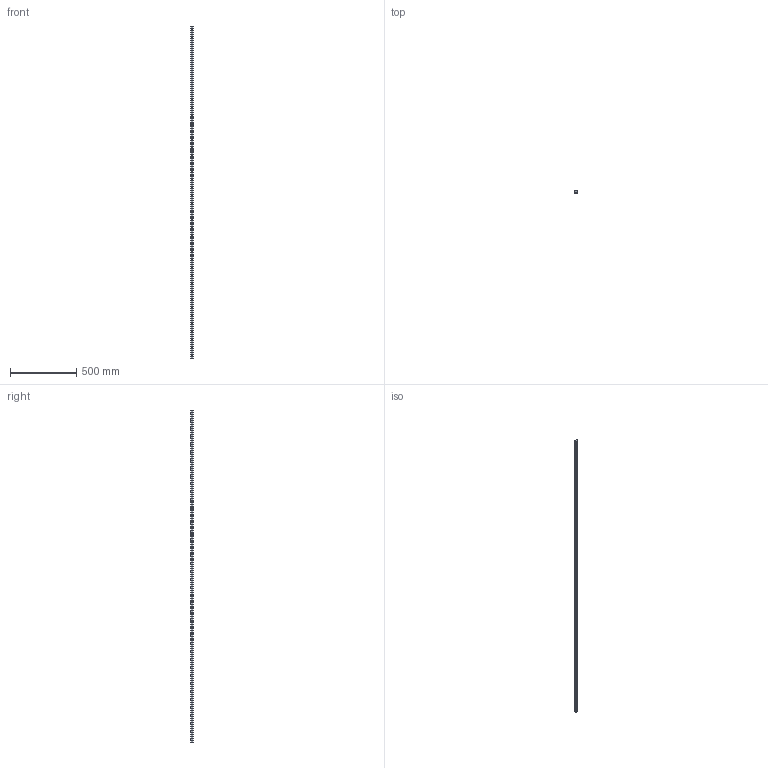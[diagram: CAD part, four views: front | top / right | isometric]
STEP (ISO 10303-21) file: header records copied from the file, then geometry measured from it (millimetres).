
FILE_DESCRIPTION (( 'STEP AP203' ), '1' );
FILE_NAME ('L1016.BL20-2500.step', '2019-06-12T11:53:14', ( '' ), ( '' ), 'SwSTEP 2.0', 'SolidWorks 2017', '' );
FILE_SCHEMA (( 'CONFIG_CONTROL_DESIGN' ));
Length unit declared in the file: millimetre
Products named in the file (1): L1016.BL20-2500
Bounding box: 20 x 16.3 x 2500 mm (x, y, z)
Volume: 694890.6 mm3; surface area: 201193.6 mm2
Topology: 1 solids, 1 shells, 236 faces, 576 edges, 384 vertices
Faces by surface type: cylinder 172, plane 64
Entity records: 7369 total; most frequent: DIRECTION 1394, CARTESIAN_POINT 1197, ORIENTED_EDGE 1152, AXIS2_PLACEMENT_3D 581, EDGE_CURVE 576, VERTEX_POINT 384, EDGE_LOOP 362, CIRCLE 344
